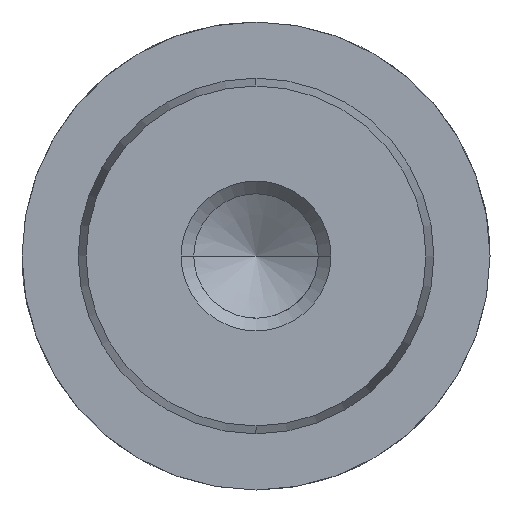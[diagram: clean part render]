
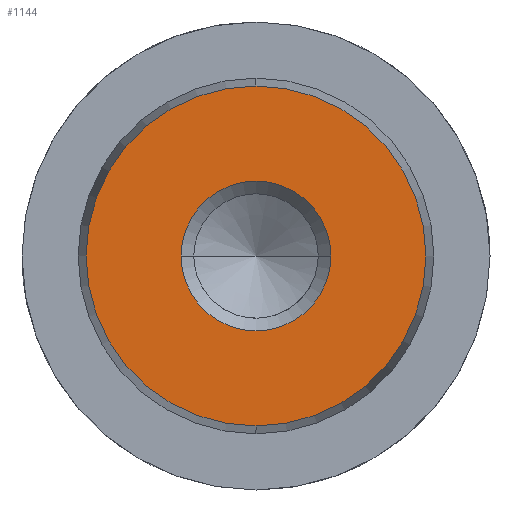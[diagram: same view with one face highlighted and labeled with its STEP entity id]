
A CAD part, left-side view. The second image highlights one B-rep face of the part: STEP entity #1144.
In plain terms, the highlighted planar face has unit normal (-1, 0, 0).
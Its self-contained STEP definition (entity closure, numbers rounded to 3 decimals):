
#1058=CARTESIAN_POINT('Vertex',(0.,0.,-9.078)) ;
#1061=CARTESIAN_POINT('Axis2P3D Location',(0.,0.,0.)) ;
#1065=CARTESIAN_POINT('Vertex',(0.,9.078,0.)) ;
#1068=CARTESIAN_POINT('Axis2P3D Location',(0.,0.,0.)) ;
#1072=CARTESIAN_POINT('Vertex',(0.,0.,9.078)) ;
#1094=CARTESIAN_POINT('Axis2P3D Location',(0.,0.,0.)) ;
#1098=CARTESIAN_POINT('Vertex',(0.,-9.078,0.)) ;
#1101=CARTESIAN_POINT('Axis2P3D Location',(0.,0.,0.)) ;
#1115=CARTESIAN_POINT('Axis2P3D Location',(0.,0.,0.)) ;
#1126=CARTESIAN_POINT('Axis2P3D Location',(0.,0.,0.)) ;
#1130=CARTESIAN_POINT('Vertex',(0.,4.,0.)) ;
#1132=CARTESIAN_POINT('Vertex',(0.,-4.,0.)) ;
#1135=CARTESIAN_POINT('Axis2P3D Location',(0.,0.,0.)) ;
#1062=DIRECTION('Axis2P3D Direction',(1.,0.,-0.)) ;
#1069=DIRECTION('Axis2P3D Direction',(1.,0.,-0.)) ;
#1095=DIRECTION('Axis2P3D Direction',(1.,0.,-0.)) ;
#1102=DIRECTION('Axis2P3D Direction',(1.,0.,-0.)) ;
#1116=DIRECTION('Axis2P3D Direction',(1.,0.,-0.)) ;
#1117=DIRECTION('Axis2P3D XDirection',(-0.,0.,-1.)) ;
#1127=DIRECTION('Axis2P3D Direction',(1.,0.,-0.)) ;
#1136=DIRECTION('Axis2P3D Direction',(1.,0.,-0.)) ;
#1063=AXIS2_PLACEMENT_3D('Circle Axis2P3D',#1061,#1062,$) ;
#1070=AXIS2_PLACEMENT_3D('Circle Axis2P3D',#1068,#1069,$) ;
#1096=AXIS2_PLACEMENT_3D('Circle Axis2P3D',#1094,#1095,$) ;
#1103=AXIS2_PLACEMENT_3D('Circle Axis2P3D',#1101,#1102,$) ;
#1118=AXIS2_PLACEMENT_3D('Plane Axis2P3D',#1115,#1116,#1117) ;
#1128=AXIS2_PLACEMENT_3D('Circle Axis2P3D',#1126,#1127,$) ;
#1137=AXIS2_PLACEMENT_3D('Circle Axis2P3D',#1135,#1136,$) ;
#1121=ORIENTED_EDGE('',*,*,#1067,.F.) ;
#1122=ORIENTED_EDGE('',*,*,#1105,.F.) ;
#1123=ORIENTED_EDGE('',*,*,#1100,.F.) ;
#1124=ORIENTED_EDGE('',*,*,#1074,.F.) ;
#1141=ORIENTED_EDGE('',*,*,#1134,.T.) ;
#1142=ORIENTED_EDGE('',*,*,#1139,.T.) ;
#1143=FACE_BOUND('',#1140,.T.) ;
#1144=ADVANCED_FACE('718-19x112',(#1125,#1143),#1119,.F.) ;
#1064=CIRCLE('generated circle',#1063,9.078) ;
#1071=CIRCLE('generated circle',#1070,9.078) ;
#1097=CIRCLE('generated circle',#1096,9.078) ;
#1104=CIRCLE('generated circle',#1103,9.078) ;
#1129=CIRCLE('generated circle',#1128,4.) ;
#1138=CIRCLE('generated circle',#1137,4.) ;
#1067=EDGE_CURVE('',#1059,#1066,#1064,.T.) ;
#1074=EDGE_CURVE('',#1066,#1073,#1071,.T.) ;
#1100=EDGE_CURVE('',#1073,#1099,#1097,.T.) ;
#1105=EDGE_CURVE('',#1099,#1059,#1104,.T.) ;
#1134=EDGE_CURVE('',#1131,#1133,#1129,.T.) ;
#1139=EDGE_CURVE('',#1133,#1131,#1138,.T.) ;
#1120=EDGE_LOOP('',(#1121,#1122,#1123,#1124)) ;
#1140=EDGE_LOOP('',(#1141,#1142)) ;
#1125=FACE_OUTER_BOUND('',#1120,.T.) ;
#1119=PLANE('Plane',#1118) ;
#1059=VERTEX_POINT('',#1058) ;
#1066=VERTEX_POINT('',#1065) ;
#1073=VERTEX_POINT('',#1072) ;
#1099=VERTEX_POINT('',#1098) ;
#1131=VERTEX_POINT('',#1130) ;
#1133=VERTEX_POINT('',#1132) ;
